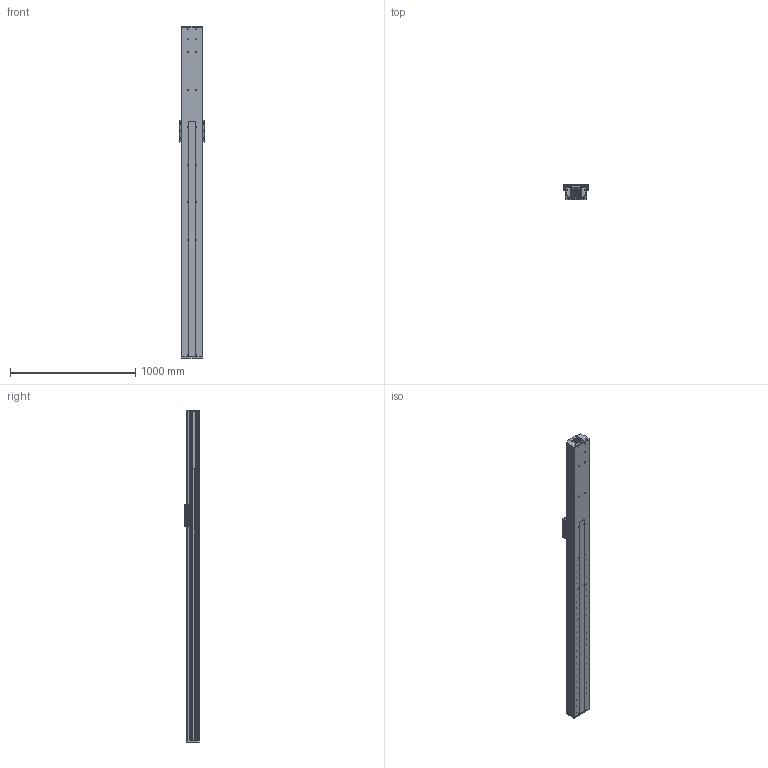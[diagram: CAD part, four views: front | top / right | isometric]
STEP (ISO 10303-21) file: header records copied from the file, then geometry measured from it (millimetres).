
FILE_DESCRIPTION (( 'STEP AP203' ), '1' );
FILE_NAME ('CF175-2-P2300.STEP', '2016-02-23T07:52:45', ( 'Sky123.Org' ), ( 'Sky123.Org' ), 'SwSTEP 2.0', 'SolidWorks 2015', '' );
FILE_SCHEMA (( 'CONFIG_CONTROL_DESIGN' ));
Length unit declared in the file: millimetre
Products named in the file (13): CF175-2蹟譫釱; Y1-CF175-2-P1200-1547裔啣; Y1-CF175-2-P1200-1547臏倰第; Y1-HGR20-1500絳寢; CF-HGH20CA賑輸; CF175-2賑雄啣; SFU2505-4; 175-2梓袧嘐隅釱; X1-SFS2525-1185; 175-2侜督80萇儂釱; 175-2耜啣; CF175-2-P2300; 175-2盓傅釱
Assembly tree (16 placements, depth 2):
  CF175-2-P2300
    CF-HGH20CA賑輸  x4
    SFU2505-4
    X1-SFS2525-1185
    175-2耜啣
    175-2盓傅釱
    CF175-2蹟譫釱
    Y1-CF175-2-P1200-1547裔啣
    Y1-CF175-2-P1200-1547臏倰第
    Y1-HGR20-1500絳寢  x2
    CF175-2賑雄啣
    175-2梓袧嘐隅釱
    175-2侜督80萇儂釱
Bounding box: 200 x 116.8 x 2655 mm (x, y, z)
Volume: 17285936.3 mm3; surface area: 4481108.7 mm2
Topology: 20 solids, 20 shells, 1575 faces, 4137 edges, 2740 vertices
Faces by surface type: cylinder 857, plane 694, cone 20, bspline 4
Entity records: 46222 total; most frequent: CARTESIAN_POINT 11888, DIRECTION 7184, ORIENTED_EDGE 6612, EDGE_CURVE 3306, AXIS2_PLACEMENT_3D 2725, VERTEX_POINT 2188, LINE 1734, VECTOR 1734
